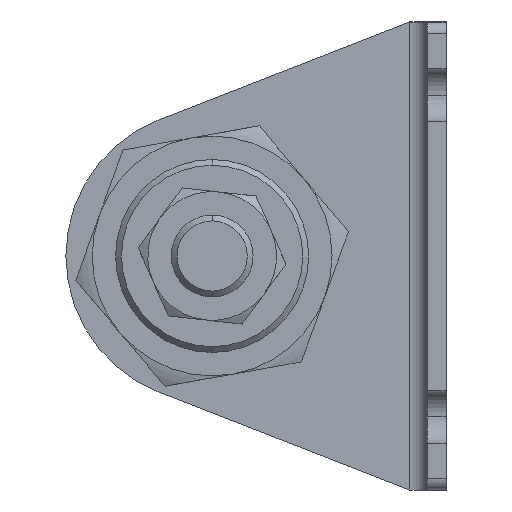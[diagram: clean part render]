
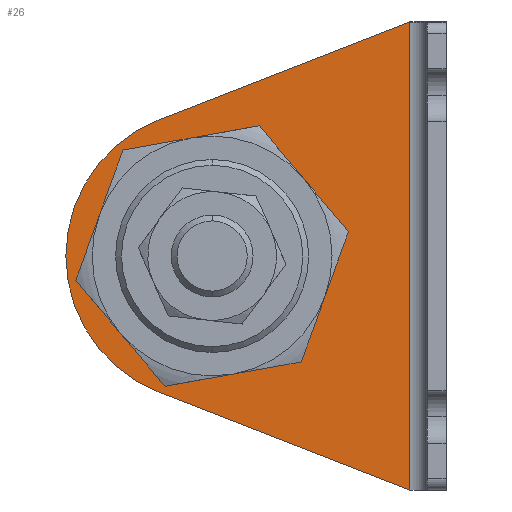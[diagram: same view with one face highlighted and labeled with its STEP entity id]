
A CAD part, left-side view. The second image highlights one B-rep face of the part: STEP entity #26.
In plain terms, the highlighted planar face has unit normal (-1, 0, 0) as drawn and (1, 0, 0) by its records, which use the part's own axes.
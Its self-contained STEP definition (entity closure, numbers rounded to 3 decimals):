
#26 = ADVANCED_FACE ( 'NONE', ( #950, #2895 ), #3539, .T. ) ;
#101 = CARTESIAN_POINT ( 'NONE',  ( 3.2, 40., -40. ) ) ;
#195 = ORIENTED_EDGE ( 'NONE', *, *, #3902, .T. ) ;
#271 = CIRCLE ( 'NONE', #3617, 16.5 ) ;
#291 = CARTESIAN_POINT ( 'NONE',  ( 3.2, 30.657, -9.529 ) ) ;
#570 = CARTESIAN_POINT ( 'NONE',  ( 3.2, 3.2, -80. ) ) ;
#920 = CARTESIAN_POINT ( 'NONE',  ( 3.2, 3.595, -81.015 ) ) ;
#950 = FACE_BOUND ( 'NONE', #4426, .T. ) ;
#1283 = DIRECTION ( 'NONE',  ( 0., 1., 0. ) ) ;
#1316 = AXIS2_PLACEMENT_3D ( 'NONE', #570, #5639, #5462 ) ;
#1321 = AXIS2_PLACEMENT_3D ( 'NONE', #2232, #4647, #1775 ) ;
#1339 = LINE ( 'NONE', #3338, #4398 ) ;
#1361 = AXIS2_PLACEMENT_3D ( 'NONE', #101, #5371, #2886 ) ;
#1397 = VECTOR ( 'NONE', #2040, 1000. ) ;
#1509 = VERTEX_POINT ( 'NONE', #1997 ) ;
#1562 = DIRECTION ( 'NONE',  ( 1., 0., 0. ) ) ;
#1614 = VECTOR ( 'NONE', #1864, 1000. ) ;
#1751 = CIRCLE ( 'NONE', #1361, 25. ) ;
#1775 = DIRECTION ( 'NONE',  ( 0., 1., 0. ) ) ;
#1831 = ORIENTED_EDGE ( 'NONE', *, *, #2262, .F. ) ;
#1864 = DIRECTION ( 'NONE',  ( 0., 0.932, -0.363 ) ) ;
#1997 = CARTESIAN_POINT ( 'NONE',  ( 3.2, 49.076, -63.294 ) ) ;
#2040 = DIRECTION ( 'NONE',  ( 0., 0.932, 0.363 ) ) ;
#2232 = CARTESIAN_POINT ( 'NONE',  ( 3.2, 40., -40. ) ) ;
#2262 = EDGE_CURVE ( 'NONE', #5218, #4616, #271, .T. ) ;
#2281 = CARTESIAN_POINT ( 'NONE',  ( 3.2, 40., -40. ) ) ;
#2446 = ORIENTED_EDGE ( 'NONE', *, *, #3735, .F. ) ;
#2669 = ORIENTED_EDGE ( 'NONE', *, *, #4746, .T. ) ;
#2675 = CIRCLE ( 'NONE', #1321, 25. ) ;
#2886 = DIRECTION ( 'NONE',  ( 0., 1., 0. ) ) ;
#2893 = VERTEX_POINT ( 'NONE', #3030 ) ;
#2895 = FACE_OUTER_BOUND ( 'NONE', #3823, .T. ) ;
#2910 = EDGE_CURVE ( 'NONE', #4616, #5218, #3202, .T. ) ;
#3029 = CARTESIAN_POINT ( 'NONE',  ( 3.2, 40., -40. ) ) ;
#3030 = CARTESIAN_POINT ( 'NONE',  ( 3.2, 6.2, 0. ) ) ;
#3202 = CIRCLE ( 'NONE', #4023, 16.5 ) ;
#3273 = VERTEX_POINT ( 'NONE', #4614 ) ;
#3294 = VERTEX_POINT ( 'NONE', #4317 ) ;
#3338 = CARTESIAN_POINT ( 'NONE',  ( 3.2, 6.2, -80. ) ) ;
#3412 = LINE ( 'NONE', #920, #1397 ) ;
#3539 = PLANE ( 'NONE',  #1316 ) ;
#3617 = AXIS2_PLACEMENT_3D ( 'NONE', #3029, #1562, #1283 ) ;
#3721 = EDGE_CURVE ( 'NONE', #2893, #3294, #1339, .T. ) ;
#3735 = EDGE_CURVE ( 'NONE', #2893, #3766, #4154, .T. ) ;
#3766 = VERTEX_POINT ( 'NONE', #4449 ) ;
#3823 = EDGE_LOOP ( 'NONE', ( #5199, #2669, #195, #2446, #5352 ) ) ;
#3902 = EDGE_CURVE ( 'NONE', #3273, #3766, #1751, .T. ) ;
#4023 = AXIS2_PLACEMENT_3D ( 'NONE', #2281, #4491, #4024 ) ;
#4024 = DIRECTION ( 'NONE',  ( 0., 1., 0. ) ) ;
#4154 = LINE ( 'NONE', #291, #1614 ) ;
#4287 = CARTESIAN_POINT ( 'NONE',  ( 3.2, 56.5, -40. ) ) ;
#4317 = CARTESIAN_POINT ( 'NONE',  ( 3.2, 6.2, -80. ) ) ;
#4379 = EDGE_CURVE ( 'NONE', #3294, #1509, #3412, .T. ) ;
#4398 = VECTOR ( 'NONE', #5293, 1000. ) ;
#4426 = EDGE_LOOP ( 'NONE', ( #1831, #4715 ) ) ;
#4449 = CARTESIAN_POINT ( 'NONE',  ( 3.2, 49.076, -16.706 ) ) ;
#4491 = DIRECTION ( 'NONE',  ( 1., 0., 0. ) ) ;
#4614 = CARTESIAN_POINT ( 'NONE',  ( 3.2, 65., -40. ) ) ;
#4616 = VERTEX_POINT ( 'NONE', #4974 ) ;
#4647 = DIRECTION ( 'NONE',  ( 1., 0., 0. ) ) ;
#4715 = ORIENTED_EDGE ( 'NONE', *, *, #2910, .F. ) ;
#4746 = EDGE_CURVE ( 'NONE', #1509, #3273, #2675, .T. ) ;
#4974 = CARTESIAN_POINT ( 'NONE',  ( 3.2, 23.5, -40. ) ) ;
#5199 = ORIENTED_EDGE ( 'NONE', *, *, #4379, .T. ) ;
#5218 = VERTEX_POINT ( 'NONE', #4287 ) ;
#5293 = DIRECTION ( 'NONE',  ( 0., 0., -1. ) ) ;
#5352 = ORIENTED_EDGE ( 'NONE', *, *, #3721, .T. ) ;
#5371 = DIRECTION ( 'NONE',  ( 1., 0., 0. ) ) ;
#5462 = DIRECTION ( 'NONE',  ( 0., 1., 0. ) ) ;
#5639 = DIRECTION ( 'NONE',  ( 1., 0., 0. ) ) ;
